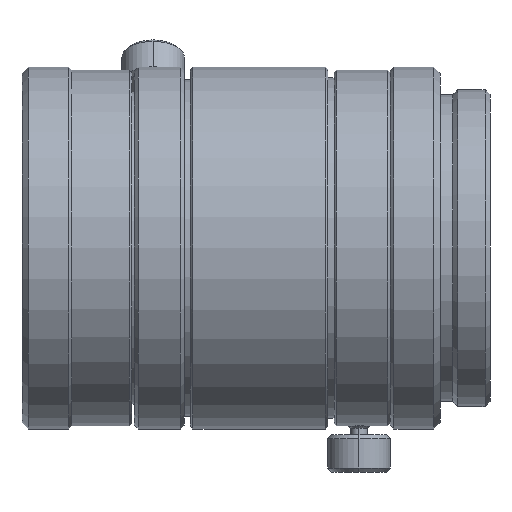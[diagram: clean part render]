
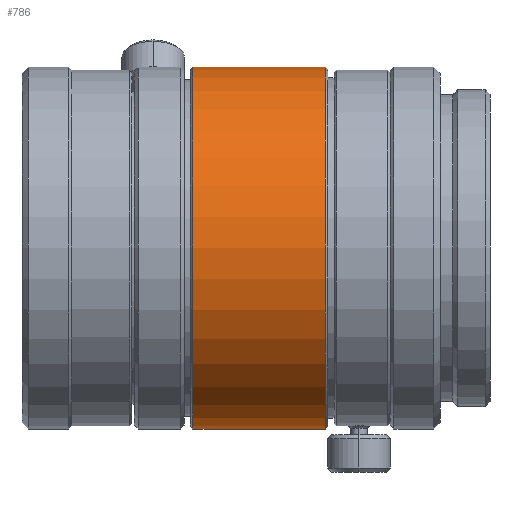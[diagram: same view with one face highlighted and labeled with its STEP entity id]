
A CAD part, front view. The second image highlights one B-rep face of the part: STEP entity #786.
In plain terms, the highlighted cylindrical face has radius 14.5 mm (diameter 29 mm), a partial arc.
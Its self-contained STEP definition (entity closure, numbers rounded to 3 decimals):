
#42 = VECTOR ( 'NONE', #1605, 1000. ) ;
#163 = AXIS2_PLACEMENT_3D ( 'NONE', #1131, #3135, #1426 ) ;
#165 = EDGE_LOOP ( 'NONE', ( #1670, #862, #230, #3223 ) ) ;
#230 = ORIENTED_EDGE ( 'NONE', *, *, #1758, .T. ) ;
#337 = VERTEX_POINT ( 'NONE', #3647 ) ;
#360 = LINE ( 'NONE', #2118, #954 ) ;
#390 = DIRECTION ( 'NONE',  ( -1., 0., 0. ) ) ;
#612 = VERTEX_POINT ( 'NONE', #3646 ) ;
#700 = EDGE_CURVE ( 'NONE', #1698, #612, #2373, .T. ) ;
#716 = AXIS2_PLACEMENT_3D ( 'NONE', #1461, #3454, #1765 ) ;
#786 = ADVANCED_FACE ( 'NONE', ( #3436 ), #1153, .T. ) ;
#862 = ORIENTED_EDGE ( 'NONE', *, *, #1368, .T. ) ;
#954 = VECTOR ( 'NONE', #390, 1000. ) ;
#1131 = CARTESIAN_POINT ( 'NONE',  ( -37.326, 0., 0. ) ) ;
#1153 = CYLINDRICAL_SURFACE ( 'NONE', #2492, 14.5 ) ;
#1368 = EDGE_CURVE ( 'NONE', #2350, #337, #2237, .T. ) ;
#1426 = DIRECTION ( 'NONE',  ( 0., 0., 1. ) ) ;
#1461 = CARTESIAN_POINT ( 'NONE',  ( -26.726, 0., 0. ) ) ;
#1605 = DIRECTION ( 'NONE',  ( -1., 0., 0. ) ) ;
#1618 = LINE ( 'NONE', #2471, #42 ) ;
#1670 = ORIENTED_EDGE ( 'NONE', *, *, #2396, .F. ) ;
#1698 = VERTEX_POINT ( 'NONE', #1880 ) ;
#1747 = CARTESIAN_POINT ( 'NONE',  ( -53.526, 0., 0. ) ) ;
#1758 = EDGE_CURVE ( 'NONE', #337, #612, #1618, .T. ) ;
#1763 = DIRECTION ( 'NONE',  ( -1., 0., 0. ) ) ;
#1765 = DIRECTION ( 'NONE',  ( 0., 0., 1. ) ) ;
#1880 = CARTESIAN_POINT ( 'NONE',  ( -37.326, 0., -14.5 ) ) ;
#2118 = CARTESIAN_POINT ( 'NONE',  ( -53.526, 0., -14.5 ) ) ;
#2237 = CIRCLE ( 'NONE', #716, 14.5 ) ;
#2350 = VERTEX_POINT ( 'NONE', #3520 ) ;
#2373 = CIRCLE ( 'NONE', #163, 14.5 ) ;
#2396 = EDGE_CURVE ( 'NONE', #2350, #1698, #360, .T. ) ;
#2471 = CARTESIAN_POINT ( 'NONE',  ( -53.526, 0., 14.5 ) ) ;
#2492 = AXIS2_PLACEMENT_3D ( 'NONE', #1747, #1763, #2872 ) ;
#2872 = DIRECTION ( 'NONE',  ( 0., 0., 1. ) ) ;
#3135 = DIRECTION ( 'NONE',  ( -1., 0., 0. ) ) ;
#3223 = ORIENTED_EDGE ( 'NONE', *, *, #700, .F. ) ;
#3436 = FACE_OUTER_BOUND ( 'NONE', #165, .T. ) ;
#3454 = DIRECTION ( 'NONE',  ( -1., 0., 0. ) ) ;
#3520 = CARTESIAN_POINT ( 'NONE',  ( -26.726, 0., -14.5 ) ) ;
#3646 = CARTESIAN_POINT ( 'NONE',  ( -37.326, 0., 14.5 ) ) ;
#3647 = CARTESIAN_POINT ( 'NONE',  ( -26.726, 0., 14.5 ) ) ;
